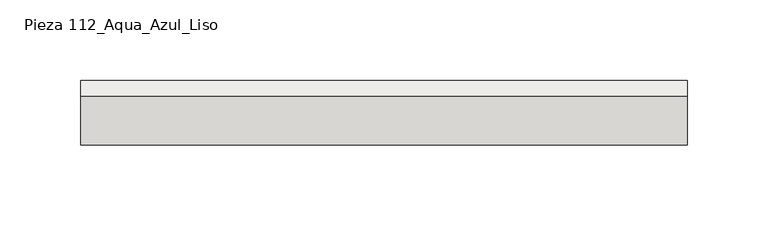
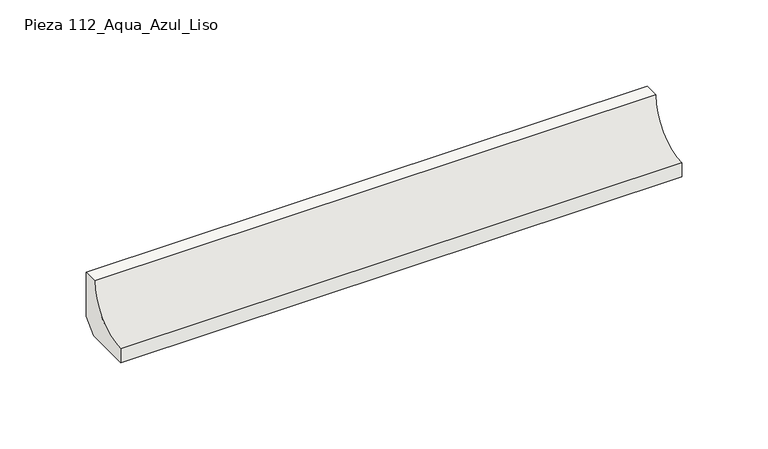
"""IFC4 building model written with IfcOpenShell, lengths in millimetres: slab geometry, ROSA GRES_112 : Pieza 112_Aqua_Azul_Liso."""

from ifc_helpers import new_model, si_unit, point, frame, frame_2d, origin, place, context, project, spatial, polyline, circle_curve, trimmed, segment, composite_curve, outline, extrude, source, transform, mapped, element, save


def pieza_112_aqua_azul_liso_1b1000f3(model_context):
    return source(origin(), model_context, "Body", "SweptSolid", [
        extrude(outline(composite_curve([segment(polyline([(0.0, 8.7114978), (-8.7114978, 0.0), (-40.0, 0.0), (-40.0, 9.9734114)]), True, "CONTINUOUS"), segment(trimmed(circle_curve(frame_2d((-39.9955547, 39.9955547)), 30.0221435), [point((-40.0, 9.9734114))], [point((-9.9734114, 40.0))], True, "CARTESIAN"), True, "CONTINUOUS"), segment(polyline([(-9.9734114, 40.0), (0.0, 40.0), (0.0, 8.7114978)]), True, "CONTINUOUS")], self_intersect=False)), frame((0.0, 0.0, 0.0), z_axis=(1.0, 0.0, 0.0), x_axis=(0.0, 1.0, 0.0)), (0.0, 0.0, 1.0), 375.7392438),
    ])


if __name__ == "__main__":
    model = new_model("IFC4")
    model_context = context("Model", 3, world=origin())
    ifc_project = project(units=[si_unit("LENGTHUNIT", "METRE", prefix="MILLI")], contexts=[model_context])
    site = spatial("IfcSite", under=ifc_project)
    building = spatial("IfcBuilding", under=site)
    placement = place(None, origin())
    pieza_112_aqua_azul_liso_shape = pieza_112_aqua_azul_liso_1b1000f3(model_context)
    element("IfcSlab", 1, ObjectType="ROSA GRES_112 : Pieza 112_Aqua_Azul_Liso", at=placement, inside=building, context=model_context, shape_type="MappedRepresentation", body=[
        mapped(pieza_112_aqua_azul_liso_shape, transform((0.0, 0.0, 0.0), x_axis=(1.0, 0.0, 0.0), y_axis=(0.0, 1.0, 0.0), z_axis=(0.0, 0.0, 1.0))),
    ])
    save(model, "model.ifc")
